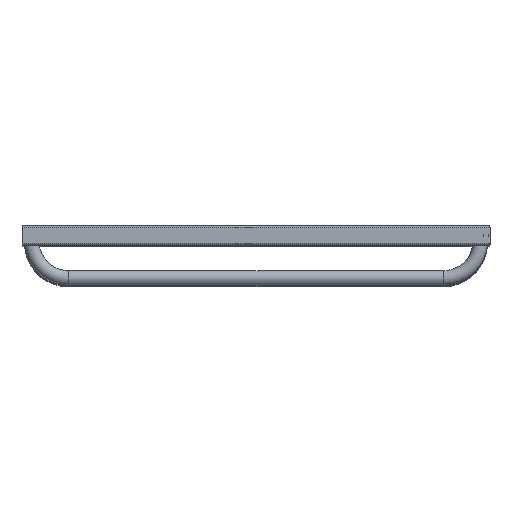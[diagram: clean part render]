
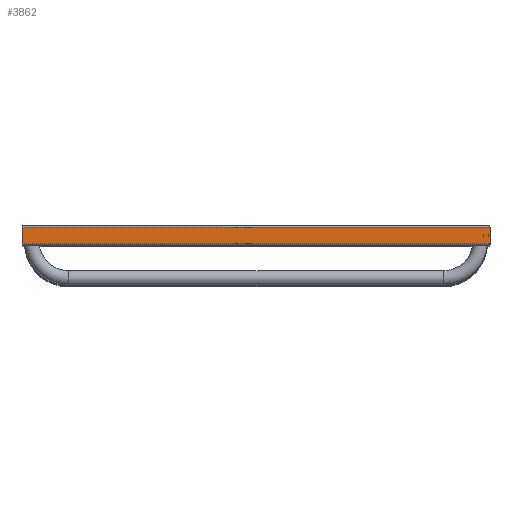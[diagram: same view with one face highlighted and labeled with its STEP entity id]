
A CAD part, top view. The second image highlights one B-rep face of the part: STEP entity #3862.
In plain terms, the highlighted planar face has unit normal (0, 0, 1).
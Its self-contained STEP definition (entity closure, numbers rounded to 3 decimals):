
#243=CARTESIAN_POINT('',(350.,12.,1480.0));
#244=VERTEX_POINT('',#243);
#251=CARTESIAN_POINT('',(350.,-12.,1480.0));
#252=VERTEX_POINT('',#251);
#253=CARTESIAN_POINT('',(350.,12.,1480.0));
#254=DIRECTION('',(0.0,-1.0,0.0));
#255=VECTOR('',#254,24.);
#256=LINE('',#253,#255);
#257=EDGE_CURVE('',#244,#252,#256,.T.);
#3713=CARTESIAN_POINT('',(-350.0,12.,1480.0));
#3714=VERTEX_POINT('',#3713);
#3715=CARTESIAN_POINT('',(-350.0,12.,1480.0));
#3716=DIRECTION('',(1.0,0.0,0.0));
#3717=VECTOR('',#3716,700.);
#3718=LINE('',#3715,#3717);
#3719=EDGE_CURVE('',#3714,#244,#3718,.T.);
#3757=CARTESIAN_POINT('',(-350.0,-12.,1480.0));
#3758=VERTEX_POINT('',#3757);
#3765=CARTESIAN_POINT('',(-350.0,-12.,1480.0));
#3766=DIRECTION('',(0.0,1.0,0.0));
#3767=VECTOR('',#3766,24.);
#3768=LINE('',#3765,#3767);
#3769=EDGE_CURVE('',#3758,#3714,#3768,.T.);
#3821=CARTESIAN_POINT('',(350.,-12.,1480.0));
#3822=DIRECTION('',(-1.0,0.0,0.0));
#3823=VECTOR('',#3822,700.0);
#3824=LINE('',#3821,#3823);
#3825=EDGE_CURVE('',#252,#3758,#3824,.T.);
#3851=CARTESIAN_POINT('',(335.0,0.,1480.0));
#3852=DIRECTION('',(0.0,0.0,1.0));
#3853=DIRECTION('',(1.0,0.0,0.0));
#3854=AXIS2_PLACEMENT_3D('',#3851,#3852,#3853);
#3855=PLANE('',#3854);
#3856=ORIENTED_EDGE('',*,*,#3719,.F.);
#3857=ORIENTED_EDGE('',*,*,#3769,.F.);
#3858=ORIENTED_EDGE('',*,*,#3825,.F.);
#3859=ORIENTED_EDGE('',*,*,#257,.F.);
#3860=EDGE_LOOP('',(#3856,#3857,#3858,#3859));
#3861=FACE_OUTER_BOUND('',#3860,.T.);
#3862=ADVANCED_FACE('',(#3861),#3855,.T.);
